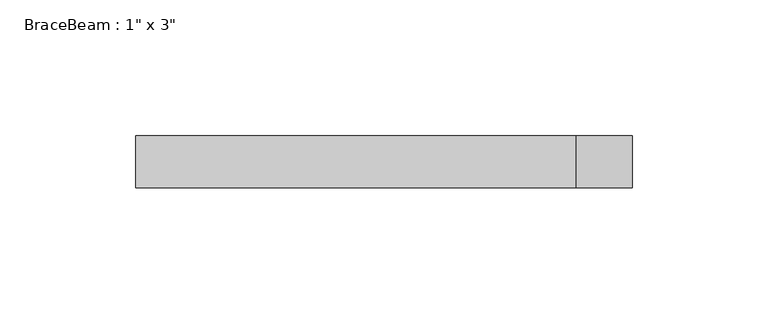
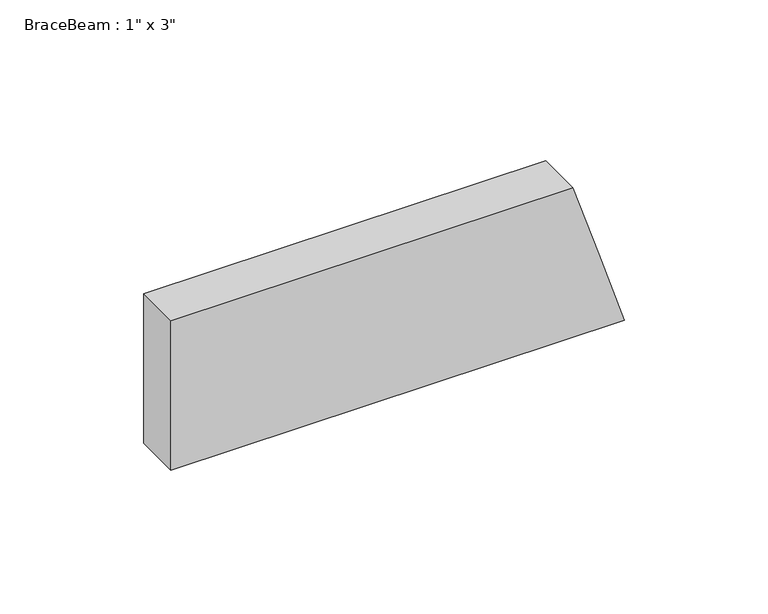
"""IFC4 building model written with IfcOpenShell, lengths in millimetres: beam geometry."""

from ifc_helpers import new_model, si_unit, origin, place, context, project, spatial, faceted_brep, source, transform, mapped, element, save


def beam_12bf33d6(model_context):
    return source(origin(), model_context, "Body", "Brep", [
        faceted_brep([(-86.8641509, -9.525, -31.75), (-86.8641509, 9.525, -31.75), (95.5786284, 9.525, -31.75), (95.5786284, -9.525, -31.75), (-86.8641509, 9.525, 31.75), (74.852934, 9.525, 31.75), (85.2157812, 9.525, 0.0), (-86.8641509, -9.525, 31.75), (74.852934, -9.525, 31.75), (85.2157812, -9.525, 0.0)], [[[0, 1, 2, 3]], [[1, 4, 5, 6, 2]], [[4, 7, 8, 5]], [[7, 0, 3, 9, 8]], [[7, 4, 1, 0]], [[5, 8, 9, 3, 2, 6]]]),
    ])


if __name__ == "__main__":
    model = new_model("IFC4")
    model_context = context("Model", 3, world=origin())
    ifc_project = project(units=[si_unit("LENGTHUNIT", "METRE", prefix="MILLI")], contexts=[model_context])
    site = spatial("IfcSite", under=ifc_project)
    building = spatial("IfcBuilding", under=site)
    placement = place(None, origin())
    beam_shape = beam_12bf33d6(model_context)
    element("IfcBeam", 1, ObjectType="BraceBeam : 1\" x 3\"", at=placement, inside=building, context=model_context, shape_type="MappedRepresentation", body=[
        mapped(beam_shape, transform((0.0, 0.0, 0.0), x_axis=(1.0, 0.0, 0.0), y_axis=(0.0, 1.0, 0.0), z_axis=(0.0, 0.0, 1.0))),
    ])
    save(model, "model.ifc")
